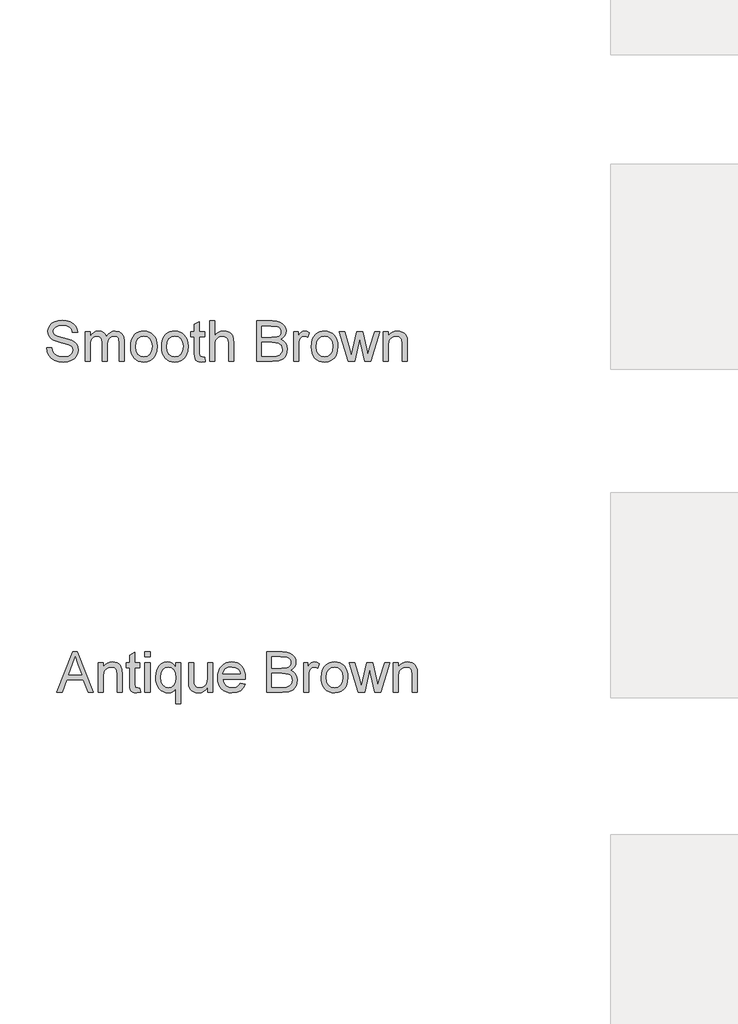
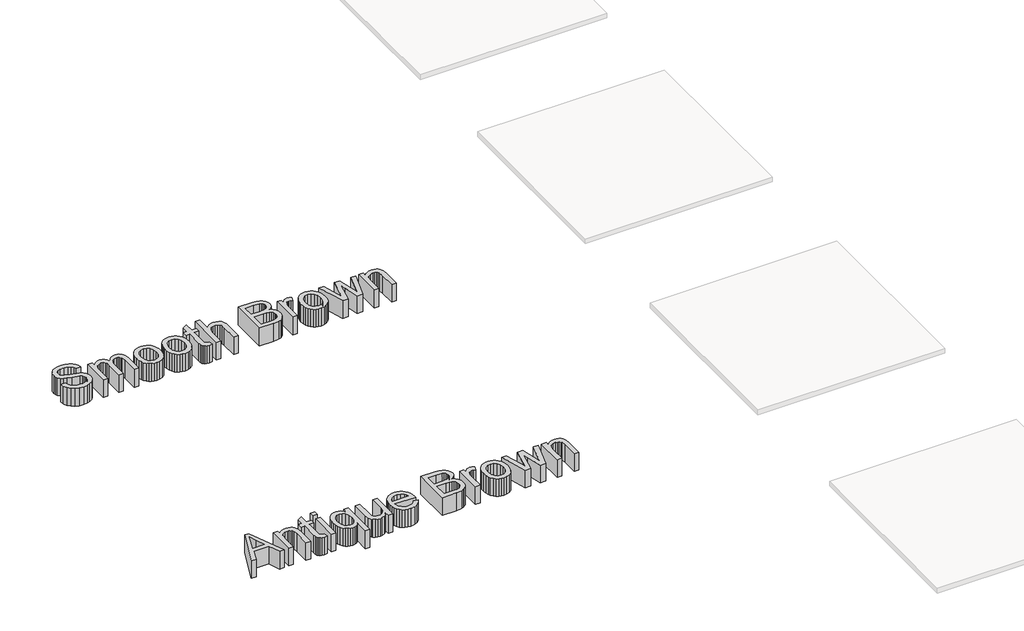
# One storey, part 2 of 5: 2 proxies.
"""IFC4 building model written with IfcOpenShell, lengths in millimetres."""

from ifc_helpers import new_model, si_unit, frame, origin, place, context, project, spatial, polyline, outline, extrude, element, save

model = new_model("IFC4")

# Units and contexts
model_context = context("Model", 3, world=origin())
ifc_project = project(units=[si_unit("LENGTHUNIT", "METRE", prefix="MILLI")], contexts=[model_context])

# Site, building, storey
site = spatial("IfcSite", under=ifc_project)
building = spatial("IfcBuilding", under=site)
storey = spatial("IfcBuildingStorey", under=building, Name="Marley Concrete Interlocking Tile", Elevation=3000.0)

# Proxies
placement = place(None, origin())
element("IfcBuildingElementProxy", 1, Name="600mm Arial", ObjectType="600mm Arial", at=placement, inside=storey, context=model_context, shape_type="SweptSolid", body=[
    extrude(outline(polyline([(-15407.9064616, -3535.4259166), (-15289.9978077, -3240.0413012), (-15258.5555, -3240.0413012), (-15140.6468462, -3535.4259166), (-15179.6612693, -3535.4259166), (-15213.4833847, -3443.1182243), (-15335.1420385, -3443.1182243), (-15368.8920385, -3535.4259166), (-15407.9064616, -3535.4259166)]), holes=[polyline([(-15321.5843462, -3406.1951473), (-15226.9689616, -3406.1951473), (-15253.5795385, -3333.574955), (-15274.2766539, -3276.9643781), (-15292.666077, -3327.2288012), (-15321.5843462, -3406.1951473)])]), frame((0.0, 0.0, 3000.0), z_axis=(0.0, 0.0, 1.0), x_axis=(1.0, 0.0, 0.0)), (0.0, 0.0, 1.0), 150.0),
    extrude(outline(polyline([(-15105.8151154, -3535.4259166), (-15105.8151154, -3318.5028396), (-15068.8920385, -3318.5028396), (-15068.8920385, -3348.7913012), (-15056.0645145, -3333.5208685), (-15040.6588654, -3322.6134166), (-15022.6750914, -3316.0689454), (-15002.1131924, -3313.887455), (-14983.9130722, -3315.6452675), (-14967.2454039, -3320.918705), (-14953.3451635, -3329.0497146), (-14943.447327, -3339.3802435), (-14932.3776154, -3366.5316858), (-14930.4305, -3402.2288012), (-14930.4305, -3535.4259166), (-14967.353577, -3535.4259166), (-14967.353577, -3407.2047627), (-14971.6083847, -3374.5364935), (-14977.4948029, -3364.809931), (-14986.6444424, -3357.2648589), (-14998.3722068, -3352.4241137), (-15011.993, -3350.8105319), (-15033.618601, -3354.43433), (-15052.0530962, -3365.3057243), (-15059.4201335, -3374.1804238), (-15064.6823029, -3386.30933), (-15068.8920385, -3420.3297627), (-15068.8920385, -3535.4259166), (-15105.8151154, -3535.4259166)])), frame((0.0, 0.0, 3000.0), z_axis=(0.0, 0.0, 1.0), x_axis=(1.0, 0.0, 0.0)), (0.0, 0.0, 1.0), 150.0),
    extrude(outline(polyline([(-14801.1997308, -3504.6326473), (-14796.5843462, -3536.5076473), (-14824.2045385, -3540.0413012), (-14841.9268943, -3538.5088493), (-14855.1420385, -3533.9114935), (-14864.4809808, -3526.8261569), (-14870.5747308, -3517.8297627), (-14873.9280962, -3502.3790416), (-14875.0458847, -3475.9307243), (-14875.0458847, -3355.4259166), (-14902.7381924, -3355.4259166), (-14902.7381924, -3318.5028396), (-14875.0458847, -3318.5028396), (-14875.0458847, -3265.7864935), (-14838.1228077, -3244.0797627), (-14838.1228077, -3318.5028396), (-14801.1997308, -3318.5028396), (-14801.1997308, -3355.4259166), (-14838.1228077, -3355.4259166), (-14838.1228077, -3474.8489935), (-14836.1756924, -3493.887455), (-14829.8655962, -3500.6302435), (-14817.2814616, -3503.1182243), (-14801.1997308, -3504.6326473)])), frame((0.0, 0.0, 3000.0), z_axis=(0.0, 0.0, 1.0), x_axis=(1.0, 0.0, 0.0)), (0.0, 0.0, 1.0), 150.0),
    extrude(outline(polyline([(-14764.2766539, -3535.4259166), (-14764.2766539, -3318.5028396), (-14727.353577, -3318.5028396), (-14727.353577, -3535.4259166), (-14764.2766539, -3535.4259166)])), frame((0.0, 0.0, 3000.0), z_axis=(0.0, 0.0, 1.0), x_axis=(1.0, 0.0, 0.0)), (0.0, 0.0, 1.0), 150.0),
    extrude(outline(polyline([(-14764.2766539, -3276.9643781), (-14764.2766539, -3240.0413012), (-14727.353577, -3240.0413012), (-14727.353577, -3276.9643781), (-14764.2766539, -3276.9643781)])), frame((0.0, 0.0, 3000.0), z_axis=(0.0, 0.0, 1.0), x_axis=(1.0, 0.0, 0.0)), (0.0, 0.0, 1.0), 150.0),
    extrude(outline(polyline([(-14538.1228077, -3618.5028396), (-14538.1228077, -3505.8586089), (-14548.164875, -3519.3261569), (-14561.5603077, -3530.3057243), (-14577.1011731, -3537.6074069), (-14593.5795385, -3540.0413012), (-14611.7841659, -3538.1189755), (-14628.681702, -3532.3519983), (-14644.2721467, -3522.7403697), (-14658.5555, -3509.2840896), (-14670.4815818, -3492.4789514), (-14679.0002116, -3472.8207483), (-14684.1113895, -3450.3094803), (-14685.8151154, -3424.9451473), (-14683.1107885, -3394.0256762), (-14674.9978077, -3366.4595704), (-14661.7466058, -3343.7071666), (-14643.6276154, -3327.2288012), (-14622.0831443, -3317.2227916), (-14598.5555, -3313.887455), (-14580.3643943, -3316.4745944), (-14564.228577, -3324.2360127), (-14550.1480481, -3337.1717098), (-14538.1228077, -3355.2816858), (-14538.1228077, -3318.5028396), (-14501.1997308, -3318.5028396), (-14501.1997308, -3618.5028396), (-14538.1228077, -3618.5028396)]), holes=[polyline([(-14648.8920385, -3426.9643781), (-14644.7363895, -3460.2816858), (-14632.2694424, -3484.0797627), (-14613.9972068, -3498.3586089), (-14592.4256924, -3503.1182243), (-14571.7556202, -3498.5929839), (-14554.1684808, -3485.0172627), (-14542.134226, -3462.1927435), (-14538.1228077, -3429.9211089), (-14542.3505722, -3395.4229118), (-14555.0338654, -3370.6783204), (-14573.4142741, -3355.7774791), (-14594.7333847, -3350.8105319), (-14615.6558606, -3355.434931), (-14633.134827, -3369.3081281), (-14644.9527356, -3392.9709887), (-14648.8920385, -3426.9643781)])]), frame((0.0, 0.0, 3000.0), z_axis=(0.0, 0.0, 1.0), x_axis=(1.0, 0.0, 0.0)), (0.0, 0.0, 1.0), 150.0),
    extrude(outline(polyline([(-14307.353577, -3535.4259166), (-14307.353577, -3498.1422627), (-14320.712952, -3516.473092), (-14336.2718462, -3529.5665416), (-14354.0302597, -3537.4226113), (-14373.9881924, -3540.0413012), (-14391.9719664, -3538.2023589), (-14408.71175, -3532.6855319), (-14422.7562212, -3524.3922627), (-14432.6540577, -3514.2239935), (-14443.6516539, -3487.0364935), (-14445.8151154, -3452.7095704), (-14445.8151154, -3318.5028396), (-14408.8920385, -3318.5028396), (-14408.8920385, -3435.3297627), (-14406.6564616, -3472.9739935), (-14401.274851, -3485.5310848), (-14392.0530962, -3495.0773589), (-14379.6041779, -3501.1080079), (-14364.541077, -3503.1182243), (-14348.6125914, -3501.0629358), (-14333.71175, -3494.8970704), (-14321.4250914, -3485.1885368), (-14313.3391539, -3472.5052435), (-14308.8499712, -3455.1344502), (-14307.353577, -3431.3634166), (-14307.353577, -3318.5028396), (-14270.4305, -3318.5028396), (-14270.4305, -3535.4259166), (-14307.353577, -3535.4259166)])), frame((0.0, 0.0, 3000.0), z_axis=(0.0, 0.0, 1.0), x_axis=(1.0, 0.0, 0.0)), (0.0, 0.0, 1.0), 150.0),
    extrude(outline(polyline([(-14067.7862693, -3470.8105319), (-14031.5843462, -3475.4259166), (-14044.6282164, -3502.7035608), (-14065.4425193, -3523.0941858), (-14093.5585049, -3535.8045223), (-14128.5074231, -3540.0413012), (-14151.4175794, -3538.2136269), (-14171.8307404, -3532.7306041), (-14189.7469063, -3523.5922327), (-14205.166077, -3510.7985127), (-14217.5654159, -3494.7055139), (-14226.4220866, -3475.669306), (-14231.736089, -3453.6898889), (-14233.5074231, -3428.7672627), (-14231.7180601, -3402.9995344), (-14226.3499712, -3380.2876954), (-14217.4031563, -3360.6317459), (-14204.8776154, -3344.0316858), (-14189.4990097, -3330.8435848), (-14171.993, -3321.4235127), (-14152.3595866, -3315.7714694), (-14130.5987693, -3313.887455), (-14109.5388234, -3315.7669622), (-14090.493601, -3321.4054839), (-14073.4631022, -3330.8030199), (-14058.447327, -3343.9595704), (-14046.1899652, -3360.5235728), (-14037.4347068, -3380.1434646), (-14032.1815517, -3402.8192459), (-14030.4305, -3428.5509166), (-14030.6468462, -3438.5028396), (-14196.5843462, -3438.5028396), (-14190.1931202, -3466.1410608), (-14175.3463654, -3486.4595704), (-14153.9190818, -3498.9535608), (-14127.7862693, -3503.1182243), (-14108.134827, -3501.1891377), (-14091.5843462, -3495.4018781), (-14078.134827, -3485.3958685), (-14067.7862693, -3470.8105319)]), holes=[polyline([(-14196.5843462, -3401.5797627), (-14067.353577, -3401.5797627), (-14072.3475674, -3382.0725512), (-14082.1372308, -3368.1182243), (-14103.6636731, -3355.137455), (-14130.743, -3350.8105319), (-14155.6318222, -3354.263056), (-14176.21175, -3364.6206281), (-14190.5176395, -3380.7654598), (-14196.5843462, -3401.5797627)])]), frame((0.0, 0.0, 3000.0), z_axis=(0.0, 0.0, 1.0), x_axis=(1.0, 0.0, 0.0)), (0.0, 0.0, 1.0), 150.0),
    extrude(outline(polyline([(-13873.5074231, -3535.4259166), (-13873.5074231, -3240.0413012), (-13760.791077, -3240.0413012), (-13729.790476, -3242.2137771), (-13705.58675, -3248.731205), (-13687.0350674, -3259.7558444), (-13672.9905962, -3275.449955), (-13664.1474472, -3293.9114935), (-13661.1997308, -3313.2384166), (-13663.6786972, -3331.0238733), (-13671.1155962, -3347.7456281), (-13683.5645145, -3362.3760368), (-13701.0795385, -3373.887455), (-13680.1570625, -3384.8129358), (-13664.697327, -3401.4355319), (-13655.1510529, -3422.6554839), (-13651.9689616, -3447.3730319), (-13654.1414375, -3467.9709887), (-13660.6588654, -3487.0725512), (-13670.3854279, -3503.3165416), (-13682.1853077, -3515.3417819), (-13696.6354279, -3524.0497146), (-13714.3127116, -3530.3417819), (-13761.6564616, -3535.4259166), (-13873.5074231, -3535.4259166)]), holes=[polyline([(-13836.5843462, -3360.0413012), (-13769.1564616, -3360.0413012), (-13729.7814616, -3356.8682243), (-13715.9984087, -3351.3964694), (-13706.0915577, -3343.2023589), (-13700.1149952, -3332.4120944), (-13698.1228077, -3319.1518781), (-13699.9797789, -3306.2792819), (-13705.5506924, -3295.0653396), (-13714.5831443, -3286.3123348), (-13726.8247308, -3280.8225512), (-13774.2766539, -3276.9643781), (-13836.5843462, -3276.9643781), (-13836.5843462, -3360.0413012)]), polyline([(-13836.5843462, -3498.5028396), (-13760.8631924, -3498.5028396), (-13733.4593462, -3497.0605319), (-13710.27425, -3489.0196666), (-13694.9136731, -3472.6134166), (-13690.3974472, -3461.0208685), (-13688.8920385, -3447.7336089), (-13690.6588654, -3432.3009166), (-13695.9593462, -3419.0316858), (-13705.2171587, -3408.6560848), (-13718.8559808, -3401.9042819), (-13738.1738895, -3398.1993541), (-13764.4689616, -3396.9643781), (-13836.5843462, -3396.9643781), (-13836.5843462, -3498.5028396)])]), frame((0.0, 0.0, 3000.0), z_axis=(0.0, 0.0, 1.0), x_axis=(1.0, 0.0, 0.0)), (0.0, 0.0, 1.0), 150.0),
    extrude(outline(polyline([(-13605.8151154, -3535.4259166), (-13605.8151154, -3318.5028396), (-13573.5074231, -3318.5028396), (-13573.5074231, -3350.5941858), (-13561.572327, -3331.9884166), (-13550.5747308, -3321.0268781), (-13539.541077, -3315.6723108), (-13527.4978077, -3313.887455), (-13509.1083847, -3316.7360127), (-13490.4305, -3325.2816858), (-13502.7622308, -3358.3826473), (-13515.743, -3352.7035608), (-13528.7237693, -3350.8105319), (-13539.7484087, -3352.6314454), (-13549.6011731, -3358.0941858), (-13557.5609087, -3366.7840896), (-13562.9064616, -3378.2864935), (-13567.3956443, -3398.9114935), (-13568.8920385, -3421.4114935), (-13568.8920385, -3535.4259166), (-13605.8151154, -3535.4259166)])), frame((0.0, 0.0, 3000.0), z_axis=(0.0, 0.0, 1.0), x_axis=(1.0, 0.0, 0.0)), (0.0, 0.0, 1.0), 150.0),
    extrude(outline(polyline([(-13476.5843462, -3426.9643781), (-13474.5876515, -3398.8709286), (-13468.5975674, -3374.6626954), (-13458.6140938, -3354.3396786), (-13444.6372308, -3337.9018781), (-13430.5657164, -3327.395568), (-13415.0338654, -3319.8910608), (-13398.0416779, -3315.3883565), (-13379.5891539, -3313.887455), (-13359.2188113, -3315.7151293), (-13340.8000914, -3321.1981521), (-13324.332994, -3330.3365235), (-13309.8175193, -3343.1302435), (-13297.9703138, -3359.1466197), (-13289.5080241, -3377.9529598), (-13284.4306503, -3399.5492639), (-13282.7381924, -3423.9355319), (-13285.7309808, -3461.2372146), (-13294.7093462, -3489.6326473), (-13309.4118702, -3510.8976714), (-13329.5771347, -3526.8081281), (-13353.5284568, -3536.7330079), (-13379.5891539, -3540.0413012), (-13400.2569724, -3538.2203877), (-13418.8469664, -3532.7576473), (-13435.3591359, -3523.65308), (-13449.7934808, -3510.9066858), (-13461.5144844, -3494.7348108), (-13469.8866299, -3475.3538012), (-13474.9099171, -3452.7636569), (-13476.5843462, -3426.9643781)]), holes=[polyline([(-13439.6612693, -3426.8922627), (-13435.3884327, -3460.3087291), (-13422.5699231, -3484.1158204), (-13403.2790577, -3498.3676233), (-13379.5891539, -3503.1182243), (-13356.0074231, -3498.34058), (-13336.7526154, -3484.0076473), (-13323.9341058, -3459.8850512), (-13319.6612693, -3425.7384166), (-13323.9611491, -3393.2955079), (-13336.8607885, -3369.8129358), (-13356.1426395, -3355.5611329), (-13379.5891539, -3350.8105319), (-13403.2790577, -3355.5431041), (-13422.5699231, -3369.7408204), (-13435.3884327, -3393.4938252), (-13439.6612693, -3426.8922627)])]), frame((0.0, 0.0, 3000.0), z_axis=(0.0, 0.0, 1.0), x_axis=(1.0, 0.0, 0.0)), (0.0, 0.0, 1.0), 150.0),
    extrude(outline(polyline([(-13205.2141539, -3535.4259166), (-13271.1997308, -3318.5028396), (-13232.8343462, -3318.5028396), (-13195.4064616, -3445.0653396), (-13184.228577, -3490.2816858), (-13175.0699231, -3446.7239935), (-13145.2862693, -3318.5028396), (-13101.2958847, -3318.5028396), (-13071.6564616, -3446.3634166), (-13063.5074231, -3485.8105319), (-13051.8247308, -3444.199955), (-13014.3247308, -3318.5028396), (-12975.8151154, -3318.5028396), (-13042.3055, -3535.4259166), (-13086.9449231, -3535.4259166), (-13115.2862693, -3408.2143781), (-13123.5074231, -3368.5509166), (-13160.0699231, -3535.4259166), (-13205.2141539, -3535.4259166)])), frame((0.0, 0.0, 3000.0), z_axis=(0.0, 0.0, 1.0), x_axis=(1.0, 0.0, 0.0)), (0.0, 0.0, 1.0), 150.0),
    extrude(outline(polyline([(-12950.4305, -3535.4259166), (-12950.4305, -3318.5028396), (-12913.5074231, -3318.5028396), (-12913.5074231, -3348.7913012), (-12900.6798991, -3333.5208685), (-12885.27425, -3322.6134166), (-12867.290476, -3316.0689454), (-12846.728577, -3313.887455), (-12828.5284568, -3315.6452675), (-12811.8607885, -3320.918705), (-12797.9605481, -3329.0497146), (-12788.0627116, -3339.3802435), (-12776.993, -3366.5316858), (-12775.0458847, -3402.2288012), (-12775.0458847, -3535.4259166), (-12811.9689616, -3535.4259166), (-12811.9689616, -3407.2047627), (-12816.2237693, -3374.5364935), (-12822.1101875, -3364.809931), (-12831.259827, -3357.2648589), (-12842.9875914, -3352.4241137), (-12856.6083847, -3350.8105319), (-12878.2339856, -3354.43433), (-12896.6684808, -3365.3057243), (-12904.0355181, -3374.1804238), (-12909.2976875, -3386.30933), (-12913.5074231, -3420.3297627), (-12913.5074231, -3535.4259166), (-12950.4305, -3535.4259166)])), frame((0.0, 0.0, 3000.0), z_axis=(0.0, 0.0, 1.0), x_axis=(1.0, 0.0, 0.0)), (0.0, 0.0, 1.0), 150.0),
])
element("IfcBuildingElementProxy", 2, Name="600mm Arial", ObjectType="600mm Arial", at=placement, inside=storey, context=model_context, shape_type="SweptSolid", body=[
    extrude(outline(polyline([(-15483.1585701, -1016.7823257), (-15446.2354932, -1016.7823257), (-15441.9987144, -1037.2721094), (-15434.3364548, -1053.7414604), (-15422.3833298, -1066.8123738), (-15405.2739548, -1077.106845), (-15384.3604932, -1083.7865325), (-15360.9951086, -1086.013095), (-15340.4241951, -1084.3273979), (-15322.4133778, -1079.2703065), (-15307.8190269, -1071.2654988), (-15297.4975125, -1060.7366527), (-15291.3586903, -1048.6483113), (-15289.3124163, -1035.9650181), (-15290.8448682, -1023.606244), (-15295.442224, -1012.9241527), (-15304.7811663, -1003.8105709), (-15320.5383778, -996.1573257), (-15374.3003971, -982.0587681), (-15409.5918634, -972.7288402), (-15432.1729932, -963.8496334), (-15450.5534019, -951.4277584), (-15463.5792432, -936.3736719), (-15471.3406615, -919.0118931), (-15473.9278009, -899.6669411), (-15470.7276807, -878.0413402), (-15461.1273201, -857.8760757), (-15445.379123, -840.7847296), (-15423.7354932, -828.3808834), (-15397.7559259, -820.8358113), (-15368.9999163, -818.3207873), (-15337.8460701, -820.9529988), (-15310.5864548, -828.8496334), (-15288.1946278, -841.8484315), (-15271.6441471, -859.7871334), (-15261.1693875, -881.5479507), (-15257.004724, -906.013095), (-15293.9278009, -906.013095), (-15300.7066471, -883.981845), (-15314.8412625, -868.0804027), (-15336.926599, -858.4529988), (-15367.5576086, -855.2438642), (-15398.9097721, -858.4169411), (-15420.4181855, -867.9361719), (-15432.8580894, -881.9445854), (-15437.004724, -898.5852104), (-15434.0660221, -912.7739123), (-15425.2499163, -924.1861719), (-15404.4085701, -934.3904988), (-15364.9614548, -944.8111719), (-15299.6249163, -963.3448257), (-15278.5762384, -976.7402584), (-15263.8917432, -993.2727104), (-15255.2649403, -1012.7618931), (-15252.3893394, -1035.0275181), (-15255.6976326, -1057.7889363), (-15265.6225125, -1079.1981911), (-15281.7583298, -1097.6236719), (-15303.6994355, -1111.4337681), (-15330.0846519, -1120.0605709), (-15359.5528009, -1122.9361719), (-15395.7276807, -1119.8352104), (-15425.5023201, -1110.5323257), (-15449.2192673, -1094.9914604), (-15467.2210701, -1073.1765565), (-15478.7775605, -1046.6020373), (-15483.1585701, -1016.7823257)])), frame((0.0, 0.0, 3000.0), z_axis=(0.0, 0.0, 1.0), x_axis=(1.0, 0.0, 0.0)), (0.0, 0.0, 1.0), 150.0),
    extrude(outline(polyline([(-15201.6201086, -1118.3207873), (-15201.6201086, -901.3977104), (-15164.6970317, -901.3977104), (-15164.6970317, -937.0948257), (-15153.5912625, -920.6975902), (-15139.3124163, -907.8520373), (-15122.3472721, -899.5497536), (-15103.1826086, -896.7823257), (-15082.6477528, -899.6038402), (-15066.1874163, -908.0683834), (-15053.8917432, -921.6170613), (-15045.8508778, -939.6909796), (-15032.3923442, -920.9184435), (-15017.0407817, -907.5094892), (-14999.7961903, -899.4641166), (-14980.6585701, -896.7823257), (-14952.9031615, -901.2444652), (-14932.3773201, -914.6308834), (-14919.6940269, -937.3021575), (-14915.4662625, -969.6188642), (-14915.4662625, -1118.3207873), (-14952.3893394, -1118.3207873), (-14952.3893394, -985.4842488), (-14955.8148201, -954.6549219), (-14960.6285221, -946.1543209), (-14968.2186663, -939.4746334), (-14977.9812865, -935.1477104), (-14989.3124163, -933.7054027), (-15009.3154211, -937.4013161), (-15025.6225125, -948.4890565), (-15036.4668634, -967.7258354), (-15040.0816471, -995.8688642), (-15040.0816471, -1118.3207873), (-15077.004724, -1118.3207873), (-15077.004724, -981.3736719), (-15079.1411423, -960.4962681), (-15085.5503971, -945.6044411), (-15096.8274403, -936.6801623), (-15113.567224, -933.7054027), (-15127.7919836, -935.6885757), (-15140.8989548, -941.638095), (-15151.7162625, -951.4097296), (-15159.0720317, -964.8592488), (-15163.2907817, -983.5191046), (-15164.6970317, -1008.9217488), (-15164.6970317, -1118.3207873), (-15201.6201086, -1118.3207873)])), frame((0.0, 0.0, 3000.0), z_axis=(0.0, 0.0, 1.0), x_axis=(1.0, 0.0, 0.0)), (0.0, 0.0, 1.0), 150.0),
    extrude(outline(polyline([(-14869.3124163, -1009.8592488), (-14867.3157216, -981.7657993), (-14861.3256375, -957.5575661), (-14851.3421639, -937.2345493), (-14837.3653009, -920.7967488), (-14823.2937865, -910.2904387), (-14807.7619355, -902.7859315), (-14790.769748, -898.2832272), (-14772.317224, -896.7823257), (-14751.9468814, -898.61), (-14733.5281615, -904.0930229), (-14717.0610641, -913.2313943), (-14702.5455894, -926.0251142), (-14690.6983838, -942.0414904), (-14682.2360942, -960.8478306), (-14677.1587204, -982.4441346), (-14675.4662625, -1006.8304027), (-14678.4590509, -1044.1320854), (-14687.4374163, -1072.5275181), (-14702.1399403, -1093.7925421), (-14722.3052048, -1109.7029988), (-14746.2565269, -1119.6278786), (-14772.317224, -1122.9361719), (-14792.9850425, -1121.1152584), (-14811.5750365, -1115.6525181), (-14828.087206, -1106.5479507), (-14842.5215509, -1093.8015565), (-14854.2425545, -1077.6296815), (-14862.6147, -1058.2486719), (-14867.6379872, -1035.6585277), (-14869.3124163, -1009.8592488)]), holes=[polyline([(-14832.3893394, -1009.7871334), (-14828.1165028, -1043.2035998), (-14815.2979932, -1067.0106911), (-14796.0071278, -1081.262494), (-14772.317224, -1086.013095), (-14748.7354932, -1081.2354507), (-14729.4806855, -1066.9025181), (-14716.6621759, -1042.7799219), (-14712.3893394, -1008.6332873), (-14716.6892192, -976.1903786), (-14729.5888586, -952.7078065), (-14748.8707096, -938.4560036), (-14772.317224, -933.7054027), (-14796.0071278, -938.4379748), (-14815.2979932, -952.6356911), (-14828.1165028, -976.3886959), (-14832.3893394, -1009.7871334)])]), frame((0.0, 0.0, 3000.0), z_axis=(0.0, 0.0, 1.0), x_axis=(1.0, 0.0, 0.0)), (0.0, 0.0, 1.0), 150.0),
    extrude(outline(polyline([(-14643.1585701, -1009.8592488), (-14641.1618754, -981.7657993), (-14635.1717913, -957.5575661), (-14625.1883177, -937.2345493), (-14611.2114548, -920.7967488), (-14597.1399403, -910.2904387), (-14581.6080894, -902.7859315), (-14564.6159019, -898.2832272), (-14546.1633778, -896.7823257), (-14525.7930353, -898.61), (-14507.3743153, -904.0930229), (-14490.907218, -913.2313943), (-14476.3917432, -926.0251142), (-14464.5445377, -942.0414904), (-14456.082248, -960.8478306), (-14451.0048742, -982.4441346), (-14449.3124163, -1006.8304027), (-14452.3052048, -1044.1320854), (-14461.2835701, -1072.5275181), (-14475.9860942, -1093.7925421), (-14496.1513586, -1109.7029988), (-14520.1026807, -1119.6278786), (-14546.1633778, -1122.9361719), (-14566.8311963, -1121.1152584), (-14585.4211903, -1115.6525181), (-14601.9333598, -1106.5479507), (-14616.3677048, -1093.8015565), (-14628.0887084, -1077.6296815), (-14636.4608538, -1058.2486719), (-14641.4841411, -1035.6585277), (-14643.1585701, -1009.8592488)]), holes=[polyline([(-14606.2354932, -1009.7871334), (-14601.9626567, -1043.2035998), (-14589.1441471, -1067.0106911), (-14569.8532817, -1081.262494), (-14546.1633778, -1086.013095), (-14522.5816471, -1081.2354507), (-14503.3268394, -1066.9025181), (-14490.5083298, -1042.7799219), (-14486.2354932, -1008.6332873), (-14490.535373, -976.1903786), (-14503.4350125, -952.7078065), (-14522.7168634, -938.4560036), (-14546.1633778, -933.7054027), (-14569.8532817, -938.4379748), (-14589.1441471, -952.6356911), (-14601.9626567, -976.3886959), (-14606.2354932, -1009.7871334)])]), frame((0.0, 0.0, 3000.0), z_axis=(0.0, 0.0, 1.0), x_axis=(1.0, 0.0, 0.0)), (0.0, 0.0, 1.0), 150.0),
    extrude(outline(polyline([(-14329.3124163, -1087.5275181), (-14324.6970317, -1119.4025181), (-14352.317224, -1122.9361719), (-14370.0395798, -1121.40372), (-14383.254724, -1116.8063642), (-14392.5936663, -1109.7210277), (-14398.6874163, -1100.7246334), (-14402.0407817, -1085.2739123), (-14403.1585701, -1058.825595), (-14403.1585701, -938.3207873), (-14430.8508778, -938.3207873), (-14430.8508778, -901.3977104), (-14403.1585701, -901.3977104), (-14403.1585701, -848.6813642), (-14366.2354932, -826.9746334), (-14366.2354932, -901.3977104), (-14329.3124163, -901.3977104), (-14329.3124163, -938.3207873), (-14366.2354932, -938.3207873), (-14366.2354932, -1057.7438642), (-14364.2883778, -1076.7823257), (-14357.9782817, -1083.5251142), (-14345.3941471, -1086.013095), (-14329.3124163, -1087.5275181)])), frame((0.0, 0.0, 3000.0), z_axis=(0.0, 0.0, 1.0), x_axis=(1.0, 0.0, 0.0)), (0.0, 0.0, 1.0), 150.0),
    extrude(outline(polyline([(-14292.3893394, -1118.3207873), (-14292.3893394, -822.9361719), (-14255.4662625, -822.9361719), (-14255.4662625, -931.5419411), (-14241.9040629, -916.3346094), (-14226.6741951, -905.4722296), (-14209.7766591, -898.9548017), (-14191.2114548, -896.7823257), (-14168.9097721, -899.153119), (-14149.7451086, -906.2654988), (-14134.6549644, -917.5605709), (-14124.5768394, -932.4794411), (-14118.8977528, -952.9782392), (-14117.004724, -981.013095), (-14117.004724, -1118.3207873), (-14153.9278009, -1118.3207873), (-14153.9278009, -984.8352104), (-14156.8665028, -961.7222296), (-14165.6826086, -945.8929027), (-14179.8893394, -936.7522777), (-14198.9999163, -933.7054027), (-14214.6038826, -935.7606911), (-14229.2523201, -941.9265565), (-14241.3857336, -951.6080469), (-14249.4446278, -964.2102104), (-14253.9608538, -980.9590084), (-14255.4662625, -1003.0804027), (-14255.4662625, -1118.3207873), (-14292.3893394, -1118.3207873)])), frame((0.0, 0.0, 3000.0), z_axis=(0.0, 0.0, 1.0), x_axis=(1.0, 0.0, 0.0)), (0.0, 0.0, 1.0), 150.0),
    extrude(outline(polyline([(-13946.2354932, -1118.3207873), (-13946.2354932, -822.9361719), (-13833.5191471, -822.9361719), (-13802.5185461, -825.1086479), (-13778.3148201, -831.6260757), (-13759.7631375, -842.6507152), (-13745.7186663, -858.3448257), (-13736.8755173, -876.8063642), (-13733.9278009, -896.1332873), (-13736.4067673, -913.918744), (-13743.8436663, -930.6404988), (-13756.2925846, -945.2709075), (-13773.8076086, -956.7823257), (-13752.8851326, -967.7078065), (-13737.4253971, -984.3304027), (-13727.879123, -1005.5503546), (-13724.6970317, -1030.2679027), (-13726.8695076, -1050.8658594), (-13733.3869355, -1069.9674219), (-13743.113498, -1086.2114123), (-13754.9133778, -1098.2366527), (-13769.363498, -1106.9445854), (-13787.0407817, -1113.2366527), (-13834.3845317, -1118.3207873), (-13946.2354932, -1118.3207873)]), holes=[polyline([(-13909.3124163, -942.9361719), (-13841.8845317, -942.9361719), (-13802.5095317, -939.763095), (-13788.7264788, -934.2913402), (-13778.8196278, -926.0972296), (-13772.8430653, -915.3069652), (-13770.8508778, -902.0467488), (-13772.707849, -889.1741527), (-13778.2787625, -877.9602104), (-13787.3112144, -869.2072056), (-13799.5528009, -863.7174219), (-13847.004724, -859.8592488), (-13909.3124163, -859.8592488), (-13909.3124163, -942.9361719)]), polyline([(-13909.3124163, -1081.3977104), (-13833.5912625, -1081.3977104), (-13806.1874163, -1079.9554027), (-13783.0023201, -1071.9145373), (-13767.6417432, -1055.5082873), (-13763.1255173, -1043.9157392), (-13761.6201086, -1030.6284796), (-13763.3869355, -1015.1957873), (-13768.6874163, -1001.9265565), (-13777.9452288, -991.5509556), (-13791.5840509, -984.7991527), (-13810.9019596, -981.0942248), (-13837.1970317, -979.8592488), (-13909.3124163, -979.8592488), (-13909.3124163, -1081.3977104)])]), frame((0.0, 0.0, 3000.0), z_axis=(0.0, 0.0, 1.0), x_axis=(1.0, 0.0, 0.0)), (0.0, 0.0, 1.0), 150.0),
    extrude(outline(polyline([(-13678.5431855, -1118.3207873), (-13678.5431855, -901.3977104), (-13646.2354932, -901.3977104), (-13646.2354932, -933.4890565), (-13634.3003971, -914.8832873), (-13623.3028009, -903.9217488), (-13612.2691471, -898.5671815), (-13600.2258778, -896.7823257), (-13581.8364548, -899.6308834), (-13563.1585701, -908.1765565), (-13575.4903009, -941.2775181), (-13588.4710701, -935.5984315), (-13601.4518394, -933.7054027), (-13612.4764788, -935.5263161), (-13622.3292432, -940.9890565), (-13630.2889788, -949.6789604), (-13635.6345317, -961.1813642), (-13640.1237144, -981.8063642), (-13641.6201086, -1004.3063642), (-13641.6201086, -1118.3207873), (-13678.5431855, -1118.3207873)])), frame((0.0, 0.0, 3000.0), z_axis=(0.0, 0.0, 1.0), x_axis=(1.0, 0.0, 0.0)), (0.0, 0.0, 1.0), 150.0),
    extrude(outline(polyline([(-13549.3124163, -1009.8592488), (-13547.3157216, -981.7657993), (-13541.3256375, -957.5575661), (-13531.3421639, -937.2345493), (-13517.3653009, -920.7967488), (-13503.2937865, -910.2904387), (-13487.7619355, -902.7859315), (-13470.769748, -898.2832272), (-13452.317224, -896.7823257), (-13431.9468814, -898.61), (-13413.5281615, -904.0930229), (-13397.0610641, -913.2313943), (-13382.5455894, -926.0251142), (-13370.6983838, -942.0414904), (-13362.2360942, -960.8478306), (-13357.1587204, -982.4441346), (-13355.4662625, -1006.8304027), (-13358.4590509, -1044.1320854), (-13367.4374163, -1072.5275181), (-13382.1399403, -1093.7925421), (-13402.3052048, -1109.7029988), (-13426.2565269, -1119.6278786), (-13452.317224, -1122.9361719), (-13472.9850425, -1121.1152584), (-13491.5750365, -1115.6525181), (-13508.087206, -1106.5479507), (-13522.5215509, -1093.8015565), (-13534.2425545, -1077.6296815), (-13542.6147, -1058.2486719), (-13547.6379872, -1035.6585277), (-13549.3124163, -1009.8592488)]), holes=[polyline([(-13512.3893394, -1009.7871334), (-13508.1165028, -1043.2035998), (-13495.2979932, -1067.0106911), (-13476.0071278, -1081.262494), (-13452.317224, -1086.013095), (-13428.7354932, -1081.2354507), (-13409.4806855, -1066.9025181), (-13396.6621759, -1042.7799219), (-13392.3893394, -1008.6332873), (-13396.6892192, -976.1903786), (-13409.5888586, -952.7078065), (-13428.8707096, -938.4560036), (-13452.317224, -933.7054027), (-13476.0071278, -938.4379748), (-13495.2979932, -952.6356911), (-13508.1165028, -976.3886959), (-13512.3893394, -1009.7871334)])]), frame((0.0, 0.0, 3000.0), z_axis=(0.0, 0.0, 1.0), x_axis=(1.0, 0.0, 0.0)), (0.0, 0.0, 1.0), 150.0),
    extrude(outline(polyline([(-13277.942224, -1118.3207873), (-13343.9278009, -901.3977104), (-13305.5624163, -901.3977104), (-13268.1345317, -1027.9602104), (-13256.9566471, -1073.1765565), (-13247.7979932, -1029.6188642), (-13218.0143394, -901.3977104), (-13174.0239548, -901.3977104), (-13144.3845317, -1029.2582873), (-13136.2354932, -1068.7054027), (-13124.5528009, -1027.0948257), (-13087.0528009, -901.3977104), (-13048.5431855, -901.3977104), (-13115.0335701, -1118.3207873), (-13159.6729932, -1118.3207873), (-13188.0143394, -991.1092488), (-13196.2354932, -951.4457873), (-13232.7979932, -1118.3207873), (-13277.942224, -1118.3207873)])), frame((0.0, 0.0, 3000.0), z_axis=(0.0, 0.0, 1.0), x_axis=(1.0, 0.0, 0.0)), (0.0, 0.0, 1.0), 150.0),
    extrude(outline(polyline([(-13023.1585701, -1118.3207873), (-13023.1585701, -901.3977104), (-12986.2354932, -901.3977104), (-12986.2354932, -931.6861719), (-12973.4079692, -916.4157392), (-12958.0023201, -905.5082873), (-12940.0185461, -898.9638161), (-12919.4566471, -896.7823257), (-12901.2565269, -898.5401382), (-12884.5888586, -903.8135757), (-12870.6886182, -911.9445854), (-12860.7907817, -922.2751142), (-12849.7210701, -949.4265565), (-12847.7739548, -985.1236719), (-12847.7739548, -1118.3207873), (-12884.6970317, -1118.3207873), (-12884.6970317, -990.0996334), (-12888.9518394, -957.4313642), (-12894.8382576, -947.7048017), (-12903.9878971, -940.1597296), (-12915.7156615, -935.3189844), (-12929.3364548, -933.7054027), (-12950.9620557, -937.3292007), (-12969.3965509, -948.200595), (-12976.7635882, -957.0752945), (-12982.0257576, -969.2042007), (-12986.2354932, -1003.2246334), (-12986.2354932, -1118.3207873), (-13023.1585701, -1118.3207873)])), frame((0.0, 0.0, 3000.0), z_axis=(0.0, 0.0, 1.0), x_axis=(1.0, 0.0, 0.0)), (0.0, 0.0, 1.0), 150.0),
])

save(model, "model.ifc")
